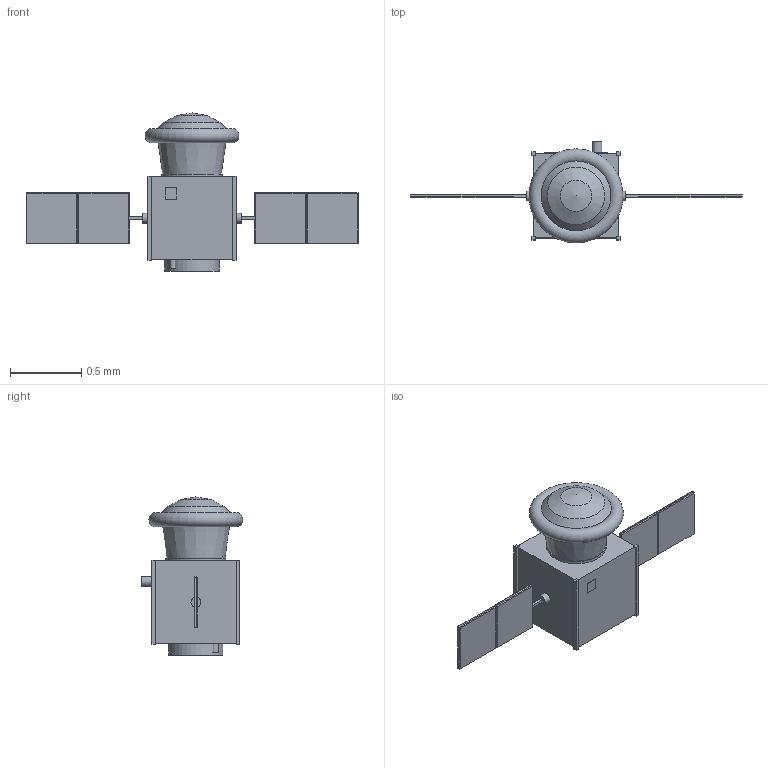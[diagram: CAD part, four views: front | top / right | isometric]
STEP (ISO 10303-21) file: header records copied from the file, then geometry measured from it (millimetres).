
FILE_DESCRIPTION(('Open CASCADE Model'),'2;1');
FILE_NAME('Open CASCADE Shape Model','2026-10-04T13:15:38',('Author'),( 'Open CASCADE'),'Open CASCADE STEP processor 7.9','Open CASCADE 7.9' ,'Unknown');
FILE_SCHEMA(('AUTOMOTIVE_DESIGN { 1 0 10303 214 1 1 1 1 }'));
Length unit declared in the file: millimetre
Products named in the file (45): SP-XTL; capsule_backshell; nose; heat_shield_packed; sample_drawer; sample_cassette_1; sample_cassette_2; sample_cassette_3; optical_window; capsule_avionics_and_hold_battery; parachute_canister; recovery_beacon; separation_interface; service_module_structure; corner_rail_-X-Y; corner_rail_-X+Y; corner_rail_+X-Y; corner_rail_+X+Y; radiator_+Y_face; experiment_instruments_microscope_pumps_reservoirs; propellant_tank_LMP-103S; battery; on-board_computer_and_radios; reaction_wheel_1; reaction_wheel_2; reaction_wheel_3; magnetorquer_1; magnetorquer_2; star_tracker; S-band_antenna; 22_N_thruster_1; 22_N_thruster_2; launch_separation_ring; array_drive_-X; yoke_-X; solar_panel_-X1; panel_frame_-X1; solar_panel_-X2; panel_frame_-X2; array_drive_+X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
Assembly tree (44 placements, depth 2):
  SP-XTL
    capsule_backshell
    nose
    heat_shield_packed
    sample_drawer
    sample_cassette_1
    sample_cassette_2
    sample_cassette_3
    optical_window
    capsule_avionics_and_hold_battery
    parachute_canister
    recovery_beacon
    separation_interface
    service_module_structure
    corner_rail_-X-Y
    corner_rail_-X+Y
    corner_rail_+X-Y
    corner_rail_+X+Y
    radiator_+Y_face
    experiment_instruments_microscope_pumps_reservoirs
    propellant_tank_LMP-103S
    battery
    on-board_computer_and_radios
    reaction_wheel_1
    reaction_wheel_2
    reaction_wheel_3
    magnetorquer_1
    magnetorquer_2
    star_tracker
    S-band_antenna
    22_N_thruster_1
    22_N_thruster_2
    launch_separation_ring
    array_drive_-X
    yoke_-X
    solar_panel_-X1
    panel_frame_-X1
    solar_panel_-X2
    panel_frame_-X2
    array_drive_+X
    yoke_+X
    solar_panel_+X1
    panel_frame_+X1
    solar_panel_+X2
    panel_frame_+X2
Bounding box: 2.34 x 0.72 x 1.11 mm (x, y, z)
Volume: 0.3 mm3; surface area: 8.6 mm2
Topology: 44 solids, 44 shells, 209 faces, 374 edges, 248 vertices
Faces by surface type: plane 187, cylinder 16, cone 4, torus 1, sphere 1
Full cylindrical faces by diameter (mm): 0.024 x2, 0.04 x1, 0.045 x2, 0.07 x3, 0.09 x3, 0.14 x1, 0.341 x1, 0.381 x1, 0.423 x1, 0.491 x1
Entity records: 10875 total; most frequent: DIRECTION 1656, CARTESIAN_POINT 1611, LINE 1039, VECTOR 1039, ORIENTED_EDGE 740, PCURVE 740, DEFINITIONAL_REPRESENTATION 740, EDGE_CURVE 370
